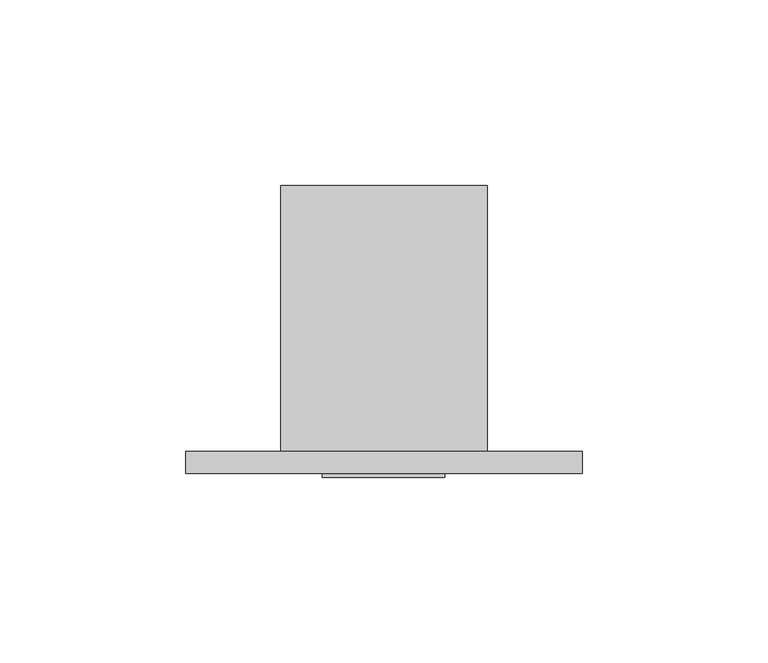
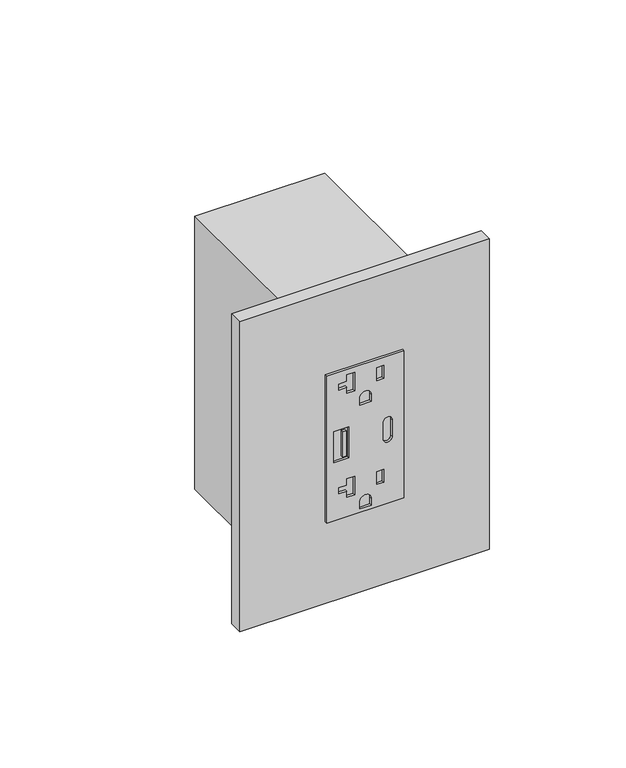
"""IFC4 building model written with IfcOpenShell, lengths in millimetres: proxy geometry, Electrical-Teknion-EPDMS_Vertical_Power_Data_Single-R2019 : PD Vertical Module - Single 20 Amp USB (A+C)."""

from ifc_helpers import new_model, si_unit, point, frame, frame_2d, origin, place, context, project, spatial, polyline, circle_curve, trimmed, segment, composite_curve, outline, extrude, source, transform, mapped, element, save


def electrical_fixtures_a27f54d7(model_context):
    return source(origin(), model_context, "Body", "SweptSolid", [
        extrude(outline(polyline([(414.274, 11.0998), (347.726, 11.0998), (347.726, 44.0944), (414.274, 44.0944), (414.274, 11.0998)]), holes=[polyline([(388.0485, 14.0236066), (388.0485, 20.5246617), (373.9515, 20.5246617), (373.9515, 14.0236066), (388.0485, 14.0236066)]), composite_curve([segment(trimmed(circle_curve(frame_2d((384.7846, 37.1348)), 1.905), [point((384.7846, 35.2298))], [point((384.7846, 39.0398))], True, "CARTESIAN"), True, "CONTINUOUS"), segment(polyline([(384.7846, 39.0398), (377.2154, 39.0398)]), True, "CONTINUOUS"), segment(trimmed(circle_curve(frame_2d((377.2154, 37.1348)), 1.905), [point((377.2154, 39.0398))], [point((377.2154, 35.2298))], True, "CARTESIAN"), True, "CONTINUOUS"), segment(polyline([(377.2154, 35.2298), (384.7846, 35.2298)]), True, "CONTINUOUS")], self_intersect=False), composite_curve([segment(polyline([(349.25, 30.0609), (349.25, 25.1333), (352.3488, 25.1333)]), True, "CONTINUOUS"), segment(trimmed(circle_curve(frame_2d((352.3488, 27.5971)), 2.4638), [point((352.3488, 25.1333))], [point((352.3488, 30.0609))], True, "CARTESIAN"), True, "CONTINUOUS"), segment(polyline([(352.3488, 30.0609), (349.25, 30.0609)]), True, "CONTINUOUS")], self_intersect=False), polyline([(364.8202, 22.9616), (356.5211661, 22.9616), (356.5211661, 19.6342), (359.2043639, 19.6342), (359.2043639, 16.1036), (361.9419812, 16.1036), (361.9419812, 19.6342), (364.8202, 19.6342), (364.8202, 22.9616)]), composite_curve([segment(polyline([(396.24, 25.1333), (399.3388, 25.1333)]), True, "CONTINUOUS"), segment(trimmed(circle_curve(frame_2d((399.3388, 27.5971)), 2.4638), [point((399.3388, 25.1333))], [point((399.3388, 30.0609))], True, "CARTESIAN"), True, "CONTINUOUS"), segment(polyline([(399.3388, 30.0609), (396.24, 30.0609), (396.24, 25.1333)]), True, "CONTINUOUS")], self_intersect=False), polyline([(404.7574649, 32.4358), (410.5806175, 32.4358), (410.5806175, 35.41014), (404.7574649, 35.41014), (404.7574649, 32.4358)]), polyline([(357.7674649, 32.4358), (363.5906175, 32.4358), (363.5906175, 35.41014), (357.7674649, 35.41014), (357.7674649, 32.4358)]), polyline([(411.8102, 22.9616), (403.5111661, 22.9616), (403.5111661, 19.6342), (406.1943639, 19.6342), (406.1943639, 16.1036), (408.9319812, 16.1036), (408.9319812, 19.6342), (411.8102, 19.6342), (411.8102, 22.9616)])]), frame((0.0, -6.9294746, 0.0), z_axis=(0.0, 1.0, 0.0), x_axis=(0.0, 0.0, 1.0)), (0.0, 0.0, 1.0), 1.0366746),
        extrude(outline(polyline([(19.314835, -6.9294746), (17.7939058, -6.9294746), (17.7939058, -5.8928), (19.314835, -5.8928), (19.314835, -6.9294746)])), frame((0.0, 0.0, 375.2741546), z_axis=(0.0, 0.0, 1.0), x_axis=(1.0, 0.0, 0.0)), (0.0, 0.0, 1.0), 11.4436352),
        extrude(outline(polyline([(-25.6794, 0.0), (81.2292, 0.0), (81.2292, -5.8928), (-25.6794, -5.8928), (-25.6794, 0.0)])), frame((0.0, 0.0, 310.8198), z_axis=(0.0, 0.0, 1.0), x_axis=(1.0, 0.0, 0.0)), (0.0, 0.0, 1.0), 140.3604),
        extrude(outline(polyline([(55.5498, 0.0), (0.0, 0.0), (0.0, 71.7296), (55.5498, 71.7296), (55.5498, 0.0)])), frame((0.0, 0.0, 319.2526), z_axis=(0.0, 0.0, 1.0), x_axis=(1.0, 0.0, 0.0)), (0.0, 0.0, 1.0), 123.4948),
    ])


if __name__ == "__main__":
    model = new_model("IFC4")
    model_context = context("Model", 3, world=origin())
    ifc_project = project(units=[si_unit("LENGTHUNIT", "METRE", prefix="MILLI")], contexts=[model_context])
    site = spatial("IfcSite", under=ifc_project)
    building = spatial("IfcBuilding", under=site)
    placement = place(None, origin())
    electrical_fixtures_shape = electrical_fixtures_a27f54d7(model_context)
    element("IfcBuildingElementProxy", 1, Name="Electrical-Teknion-EPDMS_Vertical_Power_Data_Single-R2019 : PD Vertical Module - Single 20 Amp USB (A+C)", ObjectType="Electrical-Teknion-EPDMS_Vertical_Power_Data_Single-R2019 : PD Vertical Module - Single 20 Amp USB (A+C)", at=placement, inside=building, context=model_context, shape_type="MappedRepresentation", body=[
        mapped(electrical_fixtures_shape, transform((0.0, 0.0, 0.0), x_axis=(1.0, 0.0, 0.0), y_axis=(0.0, 1.0, 0.0), z_axis=(0.0, 0.0, 1.0))),
    ])
    save(model, "model.ifc")
